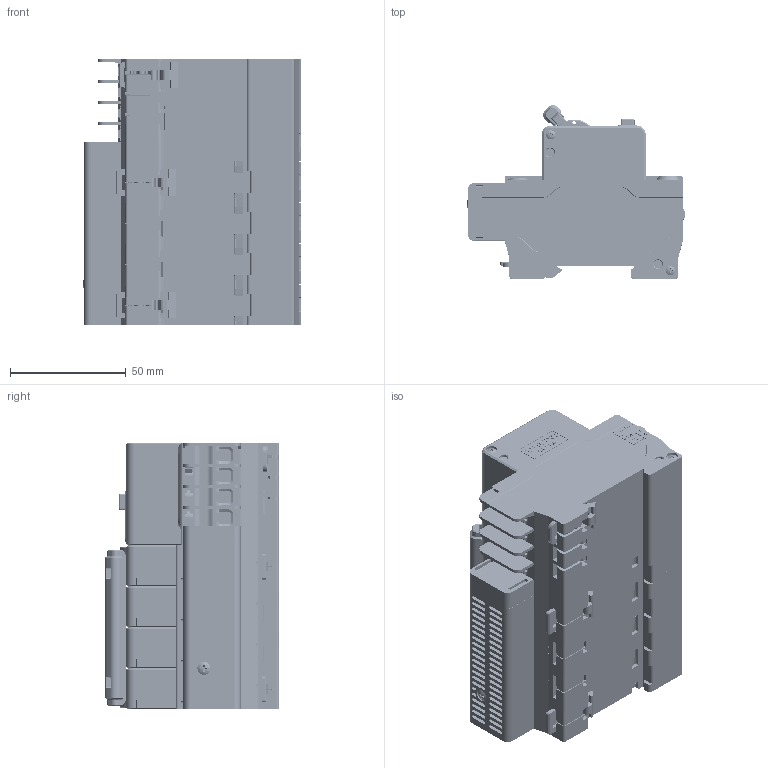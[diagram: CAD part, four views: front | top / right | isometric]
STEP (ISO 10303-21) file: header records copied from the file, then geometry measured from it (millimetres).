
FILE_DESCRIPTION((''),'2;1');
FILE_NAME('CDBHLE_4P_32_22580125_SW0001','2019-12-23T',('dong.huang'),(''),'PRO/ENGINEER BY PARAMETRIC TECHNOLOGY CORPORATION, 2015440','PRO/ENGINEER BY PARAMETRIC TECHNOLOGY CORPORATION, 2015440','');
FILE_SCHEMA(('CONFIG_CONTROL_DESIGN'));
Products named in the file (1): CDBHLE_4P_32_22580125_SW0001
Bounding box: 94.38 x 75.08 x 115.2 mm (x, y, z)
Volume: 367209.8 mm3; surface area: 167652.6 mm2
Topology: 5 solids, 51 shells, 16123 faces, 45169 edges, 29715 vertices
Faces by surface type: plane 11037, cylinder 3020, extrusion 1228, cone 539, torus 143, sphere 91, bspline 65
Entity records: 526306 total; most frequent: CARTESIAN_POINT 111415, ORIENTED_EDGE 90142, DIRECTION 79754, EDGE_CURVE 45071, VECTOR 35270, LINE 34042, VERTEX_POINT 29715, AXIS2_PLACEMENT_3D 22242
